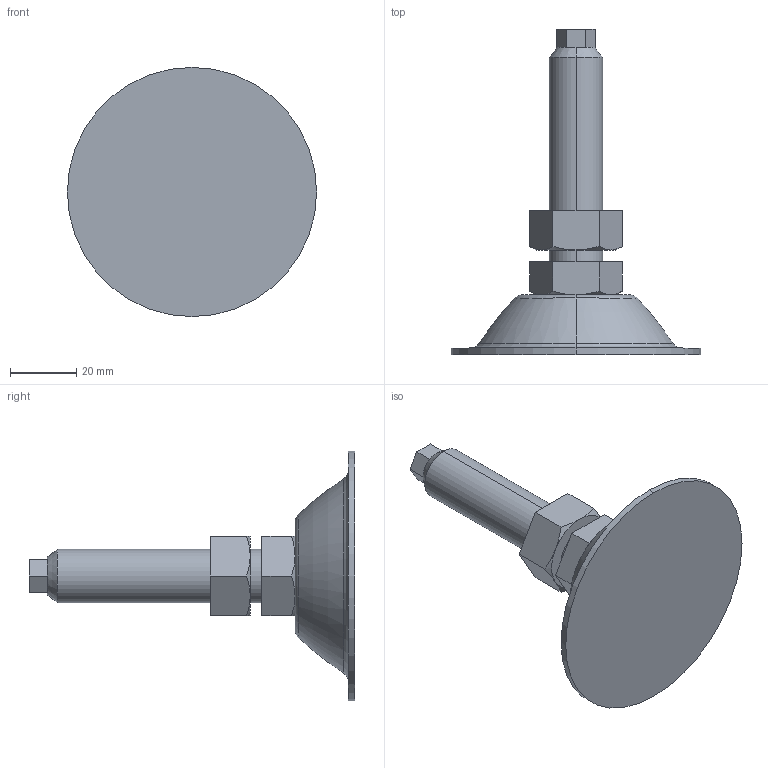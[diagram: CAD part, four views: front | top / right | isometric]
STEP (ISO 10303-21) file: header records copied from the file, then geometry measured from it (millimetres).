
FILE_DESCRIPTION (( 'STEP AP203' ), '1' );
FILE_NAME ('KC-275-A-HEX-7.STEP', '2012-06-12T01:16:53', ( '11sw' ), ( 'タキゲン製造株式会社' ), 'SwSTEP 2.0', 'SolidWorks 2011', '' );
FILE_SCHEMA (( 'CONFIG_CONTROL_DESIGN' ));
Length unit declared in the file: millimetre
Products named in the file (4): 榋妏僫僢僩M16乮1庬乯_慡挿10; KC-275-A-HEX本体__KC-275-A-HEX-7; 榋妏僫僢僩M16乮1庬乯_慡挿12; KC-275-A-HEX-7
Assembly tree (3 placements, depth 2):
  KC-275-A-HEX-7
    KC-275-A-HEX本体__KC-275-A-HEX-7
    榋妏僫僢僩M16乮1庬乯_慡挿12
    榋妏僫僢僩M16乮1庬乯_慡挿10
Bounding box: 75 x 98 x 75 mm (x, y, z)
Volume: 61938.6 mm3; surface area: 18518.9 mm2
Topology: 4 solids, 4 shells, 68 faces, 144 edges, 86 vertices
Faces by surface type: plane 28, cone 22, cylinder 12, torus 6
Entity records: 2320 total; most frequent: CARTESIAN_POINT 448, DIRECTION 324, ORIENTED_EDGE 288, EDGE_CURVE 144, AXIS2_PLACEMENT_3D 130, VERTEX_POINT 86, EDGE_LOOP 74, FACE_OUTER_BOUND 68
